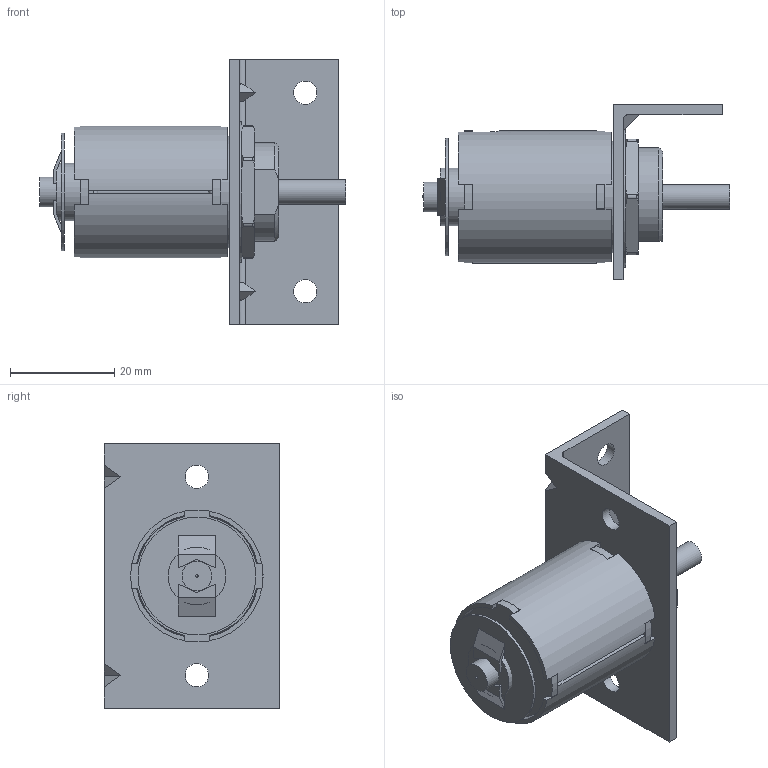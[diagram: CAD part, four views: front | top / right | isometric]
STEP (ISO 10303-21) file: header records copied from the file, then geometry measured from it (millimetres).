
FILE_DESCRIPTION((''),'2;1');
FILE_NAME('C:\Website 3D Models STP Files\MODEL TP8x9.stp','2014-08-13T14:54:48',('Dennis'),(''),'Autodesk Inventor 2013','Autodesk Inventor 2013','');
FILE_SCHEMA(('AUTOMOTIVE_DESIGN { 1 0 10303 214 1 1 1 1 }'));
Length unit declared in the file: inch
Products named in the file (9): MODEL TP8x9; A420-066675-00_Shrinkwrap_1; A104-030128-01; 104-030368-01; 104-990103-03; 164-291577-00; 146-220255-04-H; 154-000086-04; 154-900103-03
Assembly tree (8 placements, depth 3):
  MODEL TP8x9
    A420-066675-00_Shrinkwrap_1
    A104-030128-01
      104-030368-01
      104-990103-03
    164-291577-00
    146-220255-04-H
    154-000086-04
    154-900103-03
Bounding box: 58.98 x 33.66 x 50.8 mm (x, y, z)
Volume: 15822.8 mm3; surface area: 19835.9 mm2
Topology: 10 solids, 10 shells, 385 faces, 967 edges, 641 vertices
Faces by surface type: plane 289, cylinder 72, torus 16, cone 7, sphere 1
Full cylindrical faces by diameter (mm): 4.496 x4, 4.75 x1, 4.826 x1, 5.156 x1, 5.715 x1, 11.113 x2, 11.354 x1, 12.649 x1, 13.03 x1, 13.208 x1, 17.907 x1, 21.412 x1, 22.606 x1, 23.47 x1, 26.975 x1
Entity records: 11860 total; most frequent: CARTESIAN_POINT 2302, DIRECTION 1939, ORIENTED_EDGE 1848, EDGE_CURVE 924, AXIS2_PLACEMENT_3D 659, VERTEX_POINT 628, VECTOR 621, LINE 621
